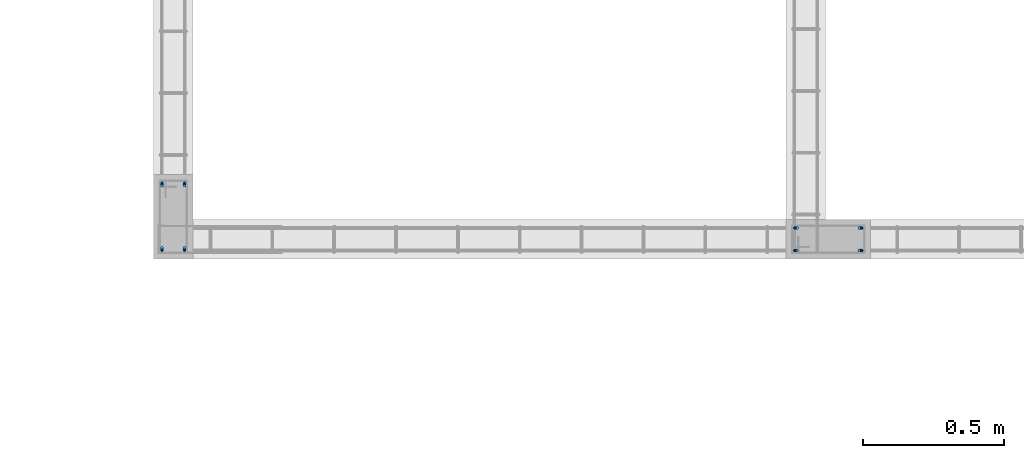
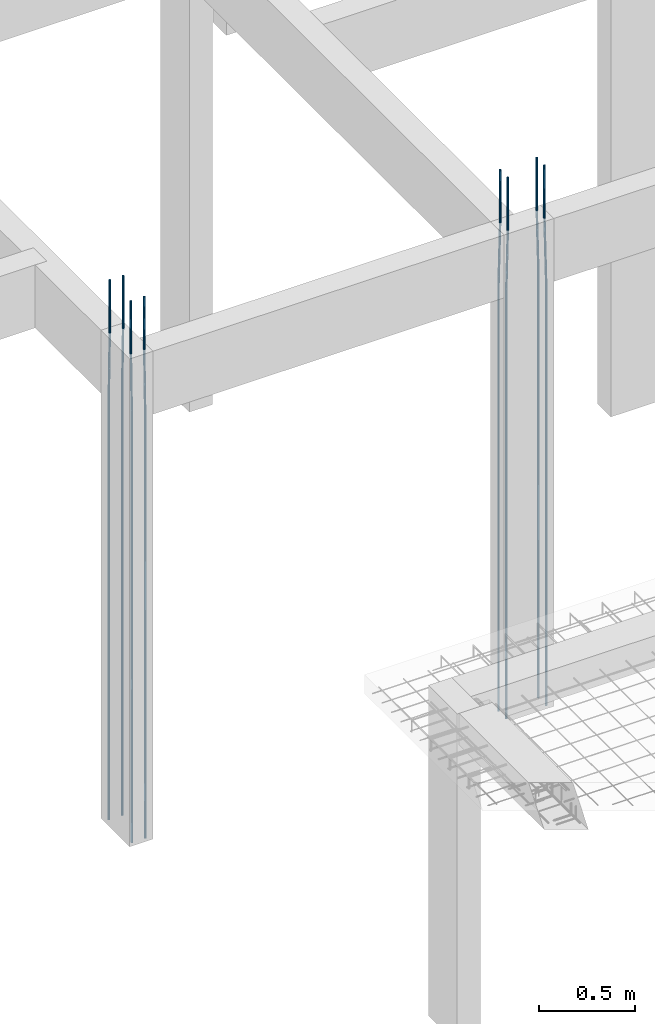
# One storey, part 43 of 236: 8 reinforcing bars.
"""IFC4 building model written with IfcOpenShell, lengths in centimetres."""

from ifc_helpers import new_model, entity, si_unit, derived_unit, frame, origin_with_axes, place, context, project, spatial, element, save


model = new_model("IFC4")

# Units and contexts
model_context = context("Model", 3, precision=1e-05, world=origin_with_axes(), identifier="Body")
ifc_project = project(units=[si_unit("LENGTHUNIT", "METRE", prefix="CENTI"), si_unit("VOLUMEUNIT", "CUBIC_METRE"), si_unit("AREAUNIT", "SQUARE_METRE"), si_unit("POWERUNIT", "WATT"), si_unit("LUMINOUSFLUXUNIT", "LUMEN"), si_unit("ELECTRICCURRENTUNIT", "AMPERE"), si_unit("PRESSUREUNIT", "PASCAL", prefix="KILO"), si_unit("MASSUNIT", "GRAM", prefix="KILO"), si_unit("PLANEANGLEUNIT", "RADIAN"), derived_unit("VOLUMETRICFLOWRATEUNIT", [(si_unit("LENGTHUNIT", "METRE"), 3), (si_unit("TIMEUNIT", "SECOND"), -1)])], contexts=[model_context])

# Site, building, storey
site_placement = place(None, frame((-4000.0, 0.0, 0.0), z_axis=(0.0, 0.0, 1.0), x_axis=(1.0, 0.0, 0.0)))
site = spatial("IfcSite", under=ifc_project, at=site_placement, Name="PADRÃO")
building_placement = place(site_placement, frame((0.0, 0.0, -14.0)))
building = spatial("IfcBuilding", under=site, at=building_placement, Name="CRECHE PRÉ-ESCOLA TIPO 2")
placement_1 = place(building_placement, origin_with_axes())
placement_2 = place(placement_1, frame((0.0, 0.0, 30.0), z_axis=(0.0, 0.0, 1.0), x_axis=(1.0, 0.0, 0.0)))
storey_placement = place(placement_2, frame((0.0, 0.0, 310.0), z_axis=(0.0, 0.0, 1.0), x_axis=(1.0, 0.0, 0.0)))
storey = spatial("IfcBuildingStorey", under=building, at=storey_placement, Name="TERREO", CompositionType="ELEMENT", Elevation=326.0)

# Reinforcing bars
reinforcing_bar_1_placement = place(storey_placement, frame((2527.5, 434.52, 33.3573001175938), z_axis=(0.0, 0.0, 1.0), x_axis=(1.0, 0.0, 0.0)))
element("IfcReinforcingBar", 1, at=reinforcing_bar_1_placement, inside=storey, Name="P146 - Longitudinal", BarLength=0.0, CrossSectionArea=7.853981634e-05, NominalDiameter=1.0, PredefinedType="MAIN", context=model_context, shape_type="AdvancedSweptSolid", body=[
    entity("IfcSweptDiskSolid", entity("IfcCompositeCurve", [entity("IfcCompositeCurveSegment", "CONTINUOUS", True, entity("IfcPolyline", [entity("IfcCartesianPoint", [0.0, 0.5, -343.357300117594]), entity("IfcCartesianPoint", [0.0, 0.5, -73.3573001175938])])), entity("IfcCompositeCurveSegment", "CONTINUOUS", True, entity("IfcPolyline", [entity("IfcCartesianPoint", [0.0, 0.5, -73.3573001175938]), entity("IfcCartesianPoint", [0.0, -0.5, -33.3573001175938])])), entity("IfcCompositeCurveSegment", "CONTINUOUS", True, entity("IfcPolyline", [entity("IfcCartesianPoint", [0.0, -0.5, -33.3573001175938]), entity("IfcCartesianPoint", [0.0, -0.5, 0.0])]))], False), 0.5),
])
for number, where, z_axis, x_axis, name in (
    (2, (2527.5, 411.52, 33.3573001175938), (0.0, 0.0, 1.0), (1.0, 0.0, 0.0), "P146 - Longitudinal"),
    (3, (2519.5, 411.52, 33.3573001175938), (0.0, 0.0, 1.0), (1.0, 0.0, 0.0), "P146 - Longitudinal"),
):
    element("IfcReinforcingBar", number, at=place(storey_placement, frame(where, z_axis=z_axis, x_axis=x_axis)), inside=storey, Name=name, BarLength=0.0, CrossSectionArea=7.853981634e-05, NominalDiameter=1.0, PredefinedType="MAIN", context=model_context, shape_type="AdvancedSweptSolid", body=[
        entity("IfcSweptDiskSolid", entity("IfcCompositeCurve", [entity("IfcCompositeCurveSegment", "CONTINUOUS", True, entity("IfcPolyline", [entity("IfcCartesianPoint", [0.0, -0.5, -343.357300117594]), entity("IfcCartesianPoint", [0.0, -0.5, -73.3573001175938])])), entity("IfcCompositeCurveSegment", "CONTINUOUS", True, entity("IfcPolyline", [entity("IfcCartesianPoint", [0.0, -0.5, -73.3573001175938]), entity("IfcCartesianPoint", [0.0, 0.5, -33.3573001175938])])), entity("IfcCompositeCurveSegment", "CONTINUOUS", True, entity("IfcPolyline", [entity("IfcCartesianPoint", [0.0, 0.5, -33.3573001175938]), entity("IfcCartesianPoint", [0.0, 0.5, 0.0])]))], False), 0.5),
    ])
reinforcing_bar_2_placement = place(storey_placement, frame((2519.5, 434.52, 33.3573001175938), z_axis=(0.0, 0.0, 1.0), x_axis=(1.0, 0.0, 0.0)))
element("IfcReinforcingBar", 4, at=reinforcing_bar_2_placement, inside=storey, Name="P146 - Longitudinal", BarLength=0.0, CrossSectionArea=7.853981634e-05, NominalDiameter=1.0, PredefinedType="MAIN", context=model_context, shape_type="AdvancedSweptSolid", body=[
    entity("IfcSweptDiskSolid", entity("IfcCompositeCurve", [entity("IfcCompositeCurveSegment", "CONTINUOUS", True, entity("IfcPolyline", [entity("IfcCartesianPoint", [0.0, 0.5, -343.357300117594]), entity("IfcCartesianPoint", [0.0, 0.5, -73.3573001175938])])), entity("IfcCompositeCurveSegment", "CONTINUOUS", True, entity("IfcPolyline", [entity("IfcCartesianPoint", [0.0, 0.5, -73.3573001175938]), entity("IfcCartesianPoint", [0.0, -0.5, -33.3573001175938])])), entity("IfcCompositeCurveSegment", "CONTINUOUS", True, entity("IfcPolyline", [entity("IfcCartesianPoint", [0.0, -0.5, -33.3573001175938]), entity("IfcCartesianPoint", [0.0, -0.5, 0.0])]))], False), 0.5),
])
reinforcing_bar_3_placement = place(storey_placement, frame((2744.96, 419.01, 33.3573001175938), z_axis=(0.0, 0.0, 1.0), x_axis=(1.0, 0.0, 0.0)))
element("IfcReinforcingBar", 5, at=reinforcing_bar_3_placement, inside=storey, Name="P147 - Longitudinal", BarLength=0.0, CrossSectionArea=7.853981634e-05, NominalDiameter=1.0, PredefinedType="MAIN", context=model_context, shape_type="AdvancedSweptSolid", body=[
    entity("IfcSweptDiskSolid", entity("IfcCompositeCurve", [entity("IfcCompositeCurveSegment", "CONTINUOUS", True, entity("IfcPolyline", [entity("IfcCartesianPoint", [-0.5, 0.0, -343.357300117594]), entity("IfcCartesianPoint", [-0.5, 0.0, -73.3573001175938])])), entity("IfcCompositeCurveSegment", "CONTINUOUS", True, entity("IfcPolyline", [entity("IfcCartesianPoint", [-0.5, 0.0, -73.3573001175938]), entity("IfcCartesianPoint", [0.5, 0.0, -33.3573001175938])])), entity("IfcCompositeCurveSegment", "CONTINUOUS", True, entity("IfcPolyline", [entity("IfcCartesianPoint", [0.5, 0.0, -33.3573001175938]), entity("IfcCartesianPoint", [0.5, 0.0, 0.0])]))], False), 0.5),
])
reinforcing_bar_4_placement = place(storey_placement, frame((2767.96, 419.01, 33.3573001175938), z_axis=(0.0, 0.0, 1.0), x_axis=(1.0, 0.0, 0.0)))
element("IfcReinforcingBar", 6, at=reinforcing_bar_4_placement, inside=storey, Name="P147 - Longitudinal", BarLength=0.0, CrossSectionArea=7.853981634e-05, NominalDiameter=1.0, PredefinedType="MAIN", context=model_context, shape_type="AdvancedSweptSolid", body=[
    entity("IfcSweptDiskSolid", entity("IfcCompositeCurve", [entity("IfcCompositeCurveSegment", "CONTINUOUS", True, entity("IfcPolyline", [entity("IfcCartesianPoint", [0.5, 0.0, -343.357300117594]), entity("IfcCartesianPoint", [0.5, 0.0, -73.3573001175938])])), entity("IfcCompositeCurveSegment", "CONTINUOUS", True, entity("IfcPolyline", [entity("IfcCartesianPoint", [0.5, 0.0, -73.3573001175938]), entity("IfcCartesianPoint", [-0.5, 0.0, -33.3573001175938])])), entity("IfcCompositeCurveSegment", "CONTINUOUS", True, entity("IfcPolyline", [entity("IfcCartesianPoint", [-0.5, 0.0, -33.3573001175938]), entity("IfcCartesianPoint", [-0.5, 0.0, 0.0])]))], False), 0.5),
])
reinforcing_bar_5_placement = place(storey_placement, frame((2744.96, 411.01, 33.3573001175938), z_axis=(0.0, 0.0, 1.0), x_axis=(1.0, 0.0, 0.0)))
element("IfcReinforcingBar", 7, at=reinforcing_bar_5_placement, inside=storey, Name="P147 - Longitudinal", BarLength=0.0, CrossSectionArea=7.853981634e-05, NominalDiameter=1.0, PredefinedType="MAIN", context=model_context, shape_type="AdvancedSweptSolid", body=[
    entity("IfcSweptDiskSolid", entity("IfcCompositeCurve", [entity("IfcCompositeCurveSegment", "CONTINUOUS", True, entity("IfcPolyline", [entity("IfcCartesianPoint", [-0.5, 0.0, -343.357300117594]), entity("IfcCartesianPoint", [-0.5, 0.0, -73.3573001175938])])), entity("IfcCompositeCurveSegment", "CONTINUOUS", True, entity("IfcPolyline", [entity("IfcCartesianPoint", [-0.5, 0.0, -73.3573001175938]), entity("IfcCartesianPoint", [0.5, 0.0, -33.3573001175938])])), entity("IfcCompositeCurveSegment", "CONTINUOUS", True, entity("IfcPolyline", [entity("IfcCartesianPoint", [0.5, 0.0, -33.3573001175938]), entity("IfcCartesianPoint", [0.5, 0.0, 0.0])]))], False), 0.5),
])
reinforcing_bar_6_placement = place(storey_placement, frame((2767.96, 411.01, 33.3573001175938), z_axis=(0.0, 0.0, 1.0), x_axis=(1.0, 0.0, 0.0)))
element("IfcReinforcingBar", 8, at=reinforcing_bar_6_placement, inside=storey, Name="P147 - Longitudinal", BarLength=0.0, CrossSectionArea=7.853981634e-05, NominalDiameter=1.0, PredefinedType="MAIN", context=model_context, shape_type="AdvancedSweptSolid", body=[
    entity("IfcSweptDiskSolid", entity("IfcCompositeCurve", [entity("IfcCompositeCurveSegment", "CONTINUOUS", True, entity("IfcPolyline", [entity("IfcCartesianPoint", [0.5, 0.0, -343.357300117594]), entity("IfcCartesianPoint", [0.5, 0.0, -73.3573001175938])])), entity("IfcCompositeCurveSegment", "CONTINUOUS", True, entity("IfcPolyline", [entity("IfcCartesianPoint", [0.5, 0.0, -73.3573001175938]), entity("IfcCartesianPoint", [-0.5, 0.0, -33.3573001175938])])), entity("IfcCompositeCurveSegment", "CONTINUOUS", True, entity("IfcPolyline", [entity("IfcCartesianPoint", [-0.5, 0.0, -33.3573001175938]), entity("IfcCartesianPoint", [-0.5, 0.0, 0.0])]))], False), 0.5),
])

save(model, "model.ifc")
